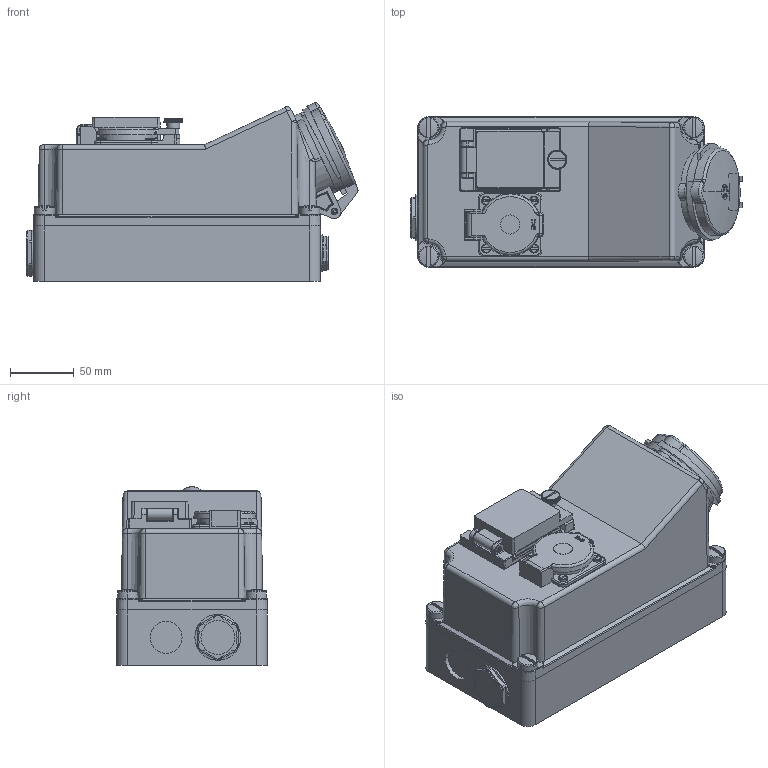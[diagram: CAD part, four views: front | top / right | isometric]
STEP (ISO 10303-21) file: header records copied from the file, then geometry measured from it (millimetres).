
FILE_DESCRIPTION((''),'2;1');
FILE_NAME('1113907_ASM_SW0002','2018-04-25T',('gisse'),('MENNEKES'),'PRO/ENGINEER BY PARAMETRIC TECHNOLOGY CORPORATION, 2015440','PRO/ENGINEER BY PARAMETRIC TECHNOLOGY CORPORATION, 2015440','');
FILE_SCHEMA(('AUTOMOTIVE_DESIGN { 1 0 10303 214 1 1 1 1 }'));
Products named in the file (1): 1113907_ASM_SW0002
Bounding box: 260.38 x 118 x 140.27 mm (x, y, z)
Volume: 2964896.3 mm3; surface area: 154482.5 mm2
Topology: 1 solids, 1 shells, 1147 faces, 3029 edges, 1924 vertices
Faces by surface type: plane 498, cylinder 317, cone 154, bspline 70, torus 60, sphere 38, extrusion 10
Entity records: 66598 total; most frequent: CARTESIAN_POINT 16501, ORIENTED_EDGE 6054, DIRECTION 5323, PRESENTATION_STYLE_ASSIGNMENT 4154, STYLED_ITEM 3038, CURVE_STYLE 3037, EDGE_CURVE 3027, FILL_AREA_STYLE_COLOUR 2207
